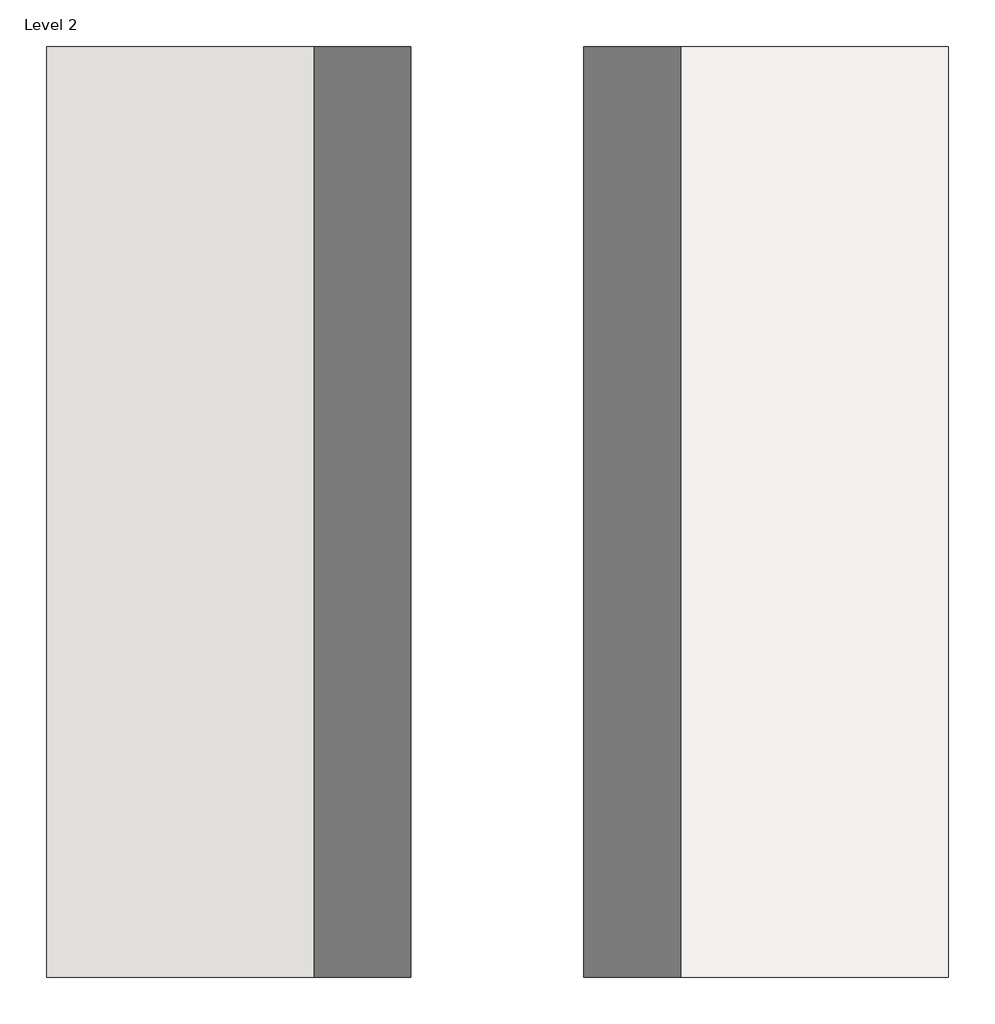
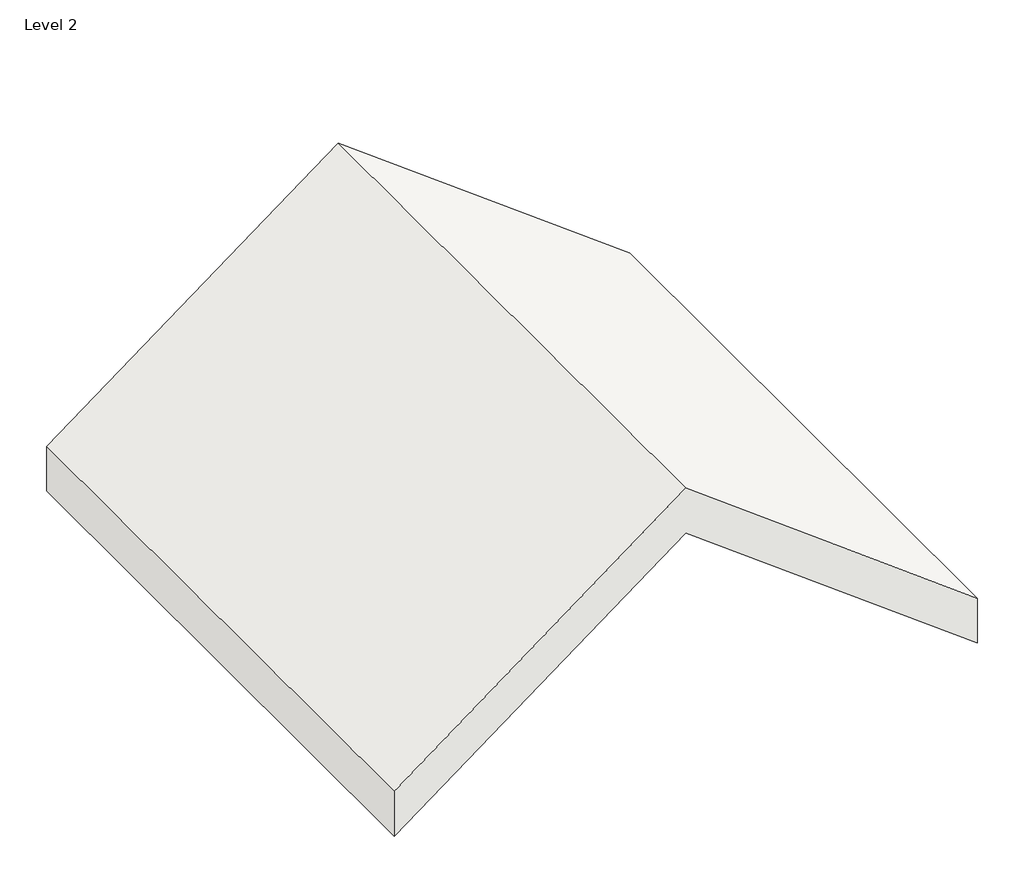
# One storey: 1 roof.
"""IFC4 building model written with IfcOpenShell, lengths in millimetres."""

import ifcopenshell
import ifcopenshell.guid

model = None  # the IFC model being written
_history = None  # IfcOwnerHistory: only IFC2X3 demands one
_inside = {}  # id of a spatial element -> (the spatial element, [elements in it])
_under = {}  # id of a project, library or spatial element -> (it, [spatial elements below it])
_declared = {}  # id of a project -> (the project, [libraries it declares])
_typed = {}  # id of a type object -> (the type object, [elements of that type])
_made_of = {}  # id of a material, layer set ... -> (it, [elements and type objects made of it])


def new_model(schema):
    """Start an empty IFC model of exactly this schema.

    Asked for "IFC4X3", IfcOpenShell would pick the latest addendum, in which some entities
    have other attributes; the version numbers below select the first issue.
    IFC2X3 requires an IfcOwnerHistory on every rooted entity: one is made here for all.
    """
    global model, _history
    if schema == "IFC4X3":
        model = ifcopenshell.file(schema_version=(4, 3, 0, 0))
    else:
        model = ifcopenshell.file(schema=schema)
    _inside.clear()
    _under.clear()
    _declared.clear()
    _typed.clear()
    _made_of.clear()
    _history = None
    if model.schema == "IFC2X3":
        org = make("IfcOrganization", Name="unknown")
        user = make(
            "IfcPersonAndOrganization",
            ThePerson=make("IfcPerson", FamilyName="unknown"),
            TheOrganization=org,
        )
        app = make(
            "IfcApplication",
            ApplicationDeveloper=org,
            Version="unknown",
            ApplicationFullName="unknown",
            ApplicationIdentifier="unknown",
        )
        _history = make(
            "IfcOwnerHistory",
            OwningUser=user,
            OwningApplication=app,
            ChangeAction="ADDED",
            CreationDate=0,
        )
    return model


def make(cls, **values):
    """One entity of the class cls with the attributes given. An attribute that is None is left unset."""
    return model.create_entity(
        cls, **{name: value for name, value in values.items() if value is not None}
    )


def rooted(cls, **values):
    """An entity with a GlobalId (a new one), such as an element, a storey or a relation."""
    return make(cls, GlobalId=ifcopenshell.guid.new(), OwnerHistory=_history, **values)


def si_unit(unit_type, name, prefix=None):
    """IfcSIUnit, for example si_unit("LENGTHUNIT", "METRE", prefix="MILLI")."""
    return make("IfcSIUnit", UnitType=unit_type, Prefix=prefix, Name=name)


def assignment(units):
    """IfcUnitAssignment: the units of a project."""
    return None if units is None else make("IfcUnitAssignment", Units=units)


def point(xyz):
    """IfcCartesianPoint."""
    return None if xyz is None else make("IfcCartesianPoint", Coordinates=xyz)


def direction(xyz):
    """IfcDirection."""
    return None if xyz is None else make("IfcDirection", DirectionRatios=xyz)


def frame(location, z_axis=None, x_axis=None):
    """IfcAxis2Placement3D, a coordinate frame: its origin and axes. An axis left out is left unset."""
    return make(
        "IfcAxis2Placement3D",
        Location=point(location),
        Axis=direction(z_axis),
        RefDirection=direction(x_axis),
    )


def origin():
    """The frame at (0, 0, 0) with its axes left unset."""
    return frame((0.0, 0.0, 0.0))


def place(relative_to, where):
    """IfcLocalPlacement: puts the frame where relative to a parent placement (None: the world)."""
    return make(
        "IfcLocalPlacement", PlacementRelTo=relative_to, RelativePlacement=where
    )


def context(
    kind, dimensions, precision=None, world=None, true_north=None, identifier=None
):
    """IfcGeometricRepresentationContext, for example the 3D "Model" context."""
    return make(
        "IfcGeometricRepresentationContext",
        ContextIdentifier=identifier,
        ContextType=kind,
        CoordinateSpaceDimension=dimensions,
        Precision=precision,
        WorldCoordinateSystem=world,
        TrueNorth=true_north,
    )


def project(units=None, contexts=None):
    """IfcProject with its units and contexts."""
    return rooted(
        "IfcProject",
        Name="project",
        RepresentationContexts=contexts,
        UnitsInContext=assignment(units),
    )


def spatial(cls, under=None, at=None, **own):
    """A site, building, storey or space (cls), placed at a placement, below another one or the project."""
    s = rooted(cls, ObjectPlacement=at, **own)
    if under is not None:
        _under.setdefault(under.id(), (under, []))[1].append(s)
    return s


def polyline(points):
    """IfcPolyline through the points."""
    return make("IfcPolyline", Points=[point(p) for p in points])


def outline(outer, holes=None, kind="AREA"):
    """IfcArbitraryClosedProfileDef: a profile drawn as a closed curve; with holes, ...WithVoids."""
    if holes is None:
        return make("IfcArbitraryClosedProfileDef", ProfileType=kind, OuterCurve=outer)
    return make(
        "IfcArbitraryProfileDefWithVoids",
        ProfileType=kind,
        OuterCurve=outer,
        InnerCurves=holes,
    )


def extrude(swept, where, along, depth):
    """IfcExtrudedAreaSolid: the profile swept, set in the frame where, extruded along a direction by depth."""
    return make(
        "IfcExtrudedAreaSolid",
        SweptArea=swept,
        Position=where,
        ExtrudedDirection=direction(along),
        Depth=depth,
    )


def shape(context_of_items, identifier, shape_type, items):
    """IfcShapeRepresentation: the items that make up one representation, for example the "Body"."""
    return make(
        "IfcShapeRepresentation",
        ContextOfItems=context_of_items,
        RepresentationIdentifier=identifier,
        RepresentationType=shape_type,
        Items=items,
    )


def made_of(thing, what):
    """Note that an element or type object is made of a material, layer set ...; save() writes the relation."""
    if what is not None:
        _made_of.setdefault(what.id(), (what, []))[1].append(thing)
    return thing


def element(
    cls,
    number,
    at=None,
    inside=None,
    cuts=None,
    type_object=None,
    material=None,
    context=None,
    identifier="Body",
    shape_type=None,
    held_by="IfcProductDefinitionShape",
    body=None,
    shapes=None,
    **own,
):
    """One element of the class cls, such as IfcWall. Its Tag is "e" and its number.

    at: its placement. inside: the storey or other place that contains it. cuts: it is an
    opening in that element (IfcRelVoidsElement). A single representation is given by context,
    identifier, shape_type and body (its items); several are given by shapes. held_by: the class
    of the entity that holds the representations. save() writes the other relations.
    """
    e = rooted(cls, Tag="e%d" % number, ObjectPlacement=at, **own)
    if body is not None:
        shapes = [shape(context, identifier, shape_type, body)]
    if shapes is not None:
        e.Representation = make(held_by, Representations=shapes)
    if inside is not None:
        _inside.setdefault(inside.id(), (inside, []))[1].append(e)
    if cuts is not None:
        rooted(
            "IfcRelVoidsElement", RelatingBuildingElement=cuts, RelatedOpeningElement=e
        )
    if type_object is not None:
        _typed.setdefault(type_object.id(), (type_object, []))[1].append(e)
    return made_of(e, material)


def aggregate(whole, parts):
    """IfcRelAggregates: a whole, such as a stair, and the parts it consists of."""
    return rooted("IfcRelAggregates", RelatingObject=whole, RelatedObjects=parts)


def save(model, path):
    """Write the relations noted so far, then the file.

    IfcRelAggregates (storeys below a building ...), IfcRelContainedInSpatialStructure (elements
    in a storey), IfcRelDefinesByType, IfcRelAssociatesMaterial and IfcRelDeclares: one each for
    every whole, place, type object, material and project.
    """
    for whole, parts in _under.values():
        aggregate(whole, parts)
    for where, things in _inside.values():
        rooted(
            "IfcRelContainedInSpatialStructure",
            RelatedElements=things,
            RelatingStructure=where,
        )
    for kind, things in _typed.values():
        rooted("IfcRelDefinesByType", RelatedObjects=things, RelatingType=kind)
    for what, things in _made_of.values():
        rooted("IfcRelAssociatesMaterial", RelatedObjects=things, RelatingMaterial=what)
    for by, libraries in _declared.values():
        rooted("IfcRelDeclares", RelatingContext=by, RelatedDefinitions=libraries)
    model.write(path)


model = new_model("IFC4")

# Units and contexts
model_context = context("Model", 3, world=origin())
ifc_project = project(units=[si_unit("LENGTHUNIT", "METRE", prefix="MILLI")], contexts=[model_context])

# Site, building, storey
site = spatial("IfcSite", under=ifc_project)
building = spatial("IfcBuilding", under=site)
storey = spatial("IfcBuildingStorey", under=building, Name="Level 2", Elevation=3048.0)

# Roof
placement = place(None, origin())
element("IfcRoof", 1, ObjectType="Generic - 12\"", at=placement, inside=storey, context=model_context, shape_type="SweptSolid", body=[
    extrude(outline(polyline([(3200.4, 5717.1709534), (4968.478125, 3359.7334534), (3200.4, 1002.2959534), (2819.4, 1002.2959534), (4587.478125, 3359.7334534), (2819.4, 5717.1709534), (3200.4, 5717.1709534)])), frame((0.0, 2942.0721995, 0.0), z_axis=(0.0, 1.0, 0.0), x_axis=(0.0, 0.0, 1.0)), (0.0, 0.0, 1.0), 4867.275),
])

save(model, "model.ifc")
